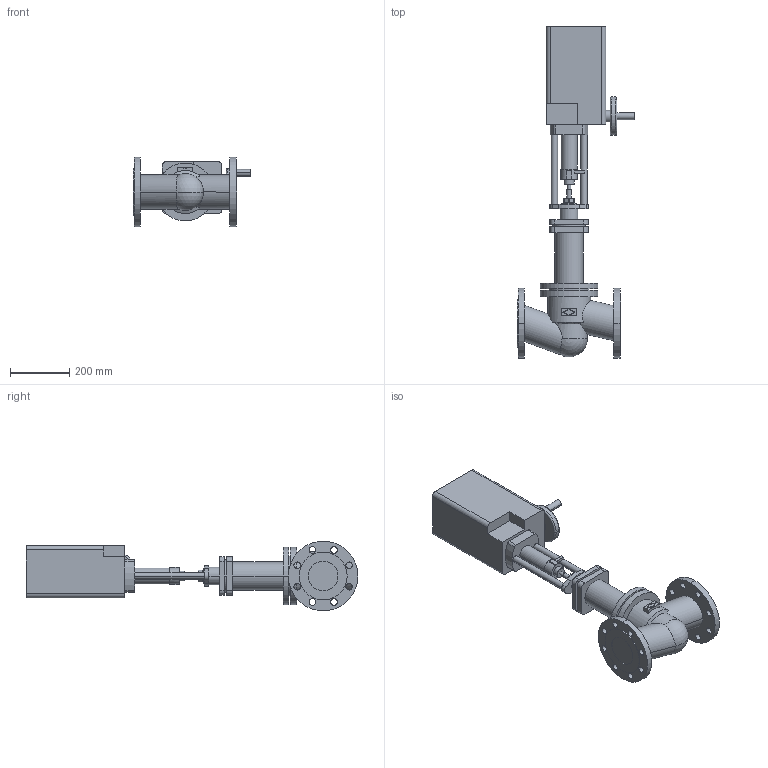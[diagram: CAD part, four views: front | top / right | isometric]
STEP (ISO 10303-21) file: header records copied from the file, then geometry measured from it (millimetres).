
FILE_DESCRIPTION(('CoCreate Modeling STEP Export'),'2;1');
FILE_NAME('c000002100.stp','2011-10-11T12:37:49',(''),(''),'CoCreate Modeling STEP processor for AP214 (Solid Model)','CoCreate Modeling 17.0 01-Apr-2010 (C) Parametric Technology GmbH','');
FILE_SCHEMA(('AUTOMOTIVE_DESIGN { 1 0 10303 214 1 1 1 1 }'));
Length unit declared in the file: millimetre
Products named in the file (2): 1; 2
Bounding box: 396.5 x 1121.2 x 235 mm (x, y, z)
Volume: 22694085.7 mm3; surface area: 998381.8 mm2
Topology: 2 solids, 2 shells, 219 faces, 541 edges, 357 vertices
Faces by surface type: cylinder 116, plane 95, torus 4, cone 2, sphere 2
Entity records: 8064 total; most frequent: CARTESIAN_POINT 1291, ORIENTED_EDGE 1078, DIRECTION 950, EDGE_CURVE 539, VERTEX_POINT 357, AXIS2_PLACEMENT_3D 340, EDGE_LOOP 284, VECTOR 270
